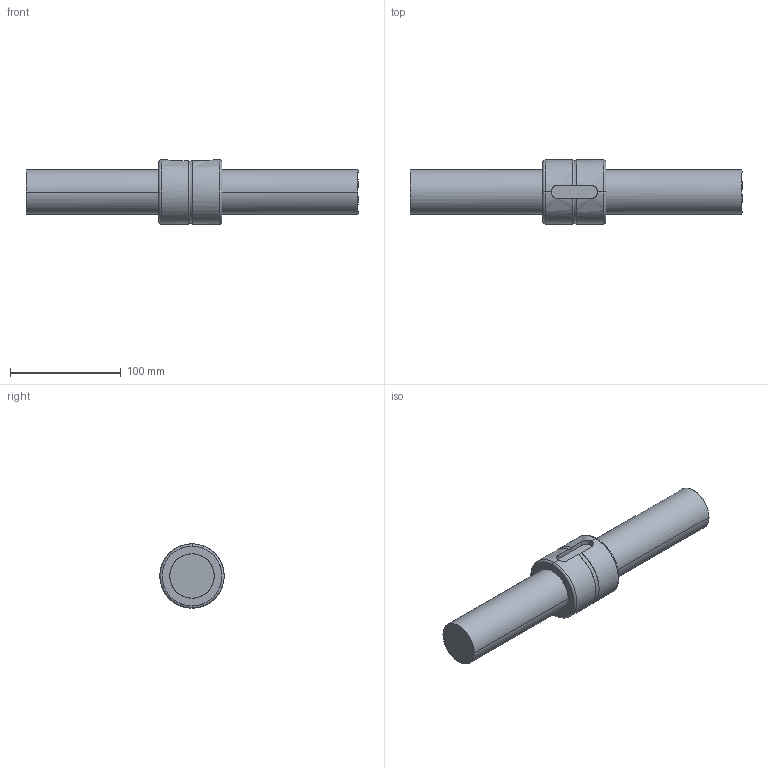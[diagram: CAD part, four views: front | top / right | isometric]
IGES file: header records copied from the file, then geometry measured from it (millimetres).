
Global section: file name: No Iges File Name specified; native system: AutoDesk Inventor R10; preprocessor: AutoDesk Inventor Iges Exporter R10; author: No Author specified; organization: No Organization specified; date: 20101224.155915; units: millimetre
Bounding box: 300 x 58 x 58 mm (x, y, z)
Surface area: 60764.8 mm2 (no closed solid volume)
Topology: 0 solids, 0 shells, 25 faces, 226 edges, 226 vertices
Faces by surface type: bspline 25
